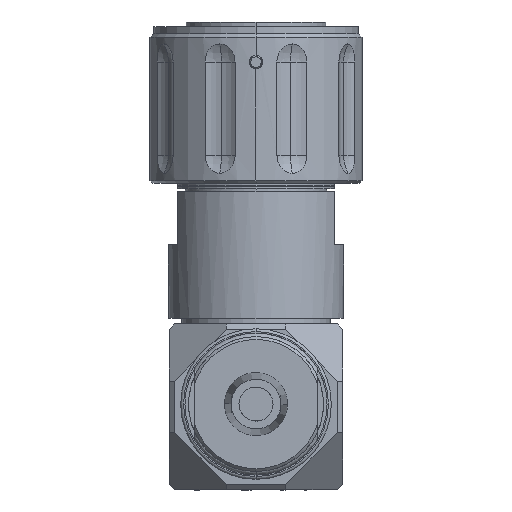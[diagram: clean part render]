
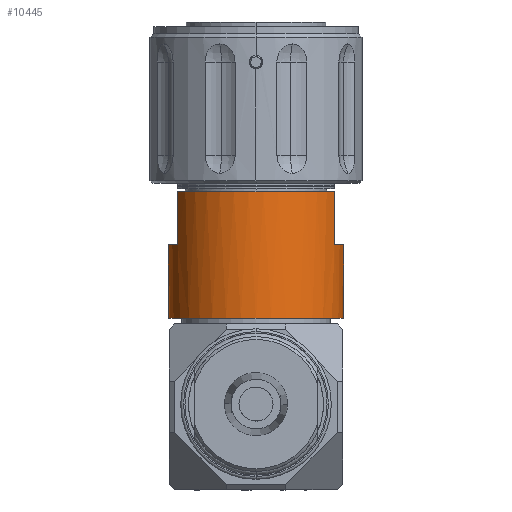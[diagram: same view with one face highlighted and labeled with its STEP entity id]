
A CAD part, front view. The second image highlights one B-rep face of the part: STEP entity #10445.
In plain terms, the highlighted cylindrical face has radius 15.684 mm (diameter 31.369 mm), a partial arc.
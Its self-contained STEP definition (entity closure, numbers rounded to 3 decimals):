
#31 = DIRECTION ( 'NONE',  ( 0., 0., 1. ) ) ;
#266 = DIRECTION ( 'NONE',  ( 1., 0., 0. ) ) ;
#1028 = CARTESIAN_POINT ( 'NONE',  ( 14.033, -7.005, -39.853 ) ) ;
#1106 = ORIENTED_EDGE ( 'NONE', *, *, #6369, .F. ) ;
#1131 = VERTEX_POINT ( 'NONE', #11054 ) ;
#1208 = AXIS2_PLACEMENT_3D ( 'NONE', #7498, #2105, #5371 ) ;
#1511 = CARTESIAN_POINT ( 'NONE',  ( -14.033, -7.005, -30.328 ) ) ;
#1941 = LINE ( 'NONE', #7546, #5674 ) ;
#2105 = DIRECTION ( 'NONE',  ( 0., 0., 1. ) ) ;
#2579 = CIRCLE ( 'NONE', #1208, 15.685 ) ;
#3164 = EDGE_CURVE ( 'NONE', #3919, #9070, #13688, .T. ) ;
#3390 = EDGE_CURVE ( 'NONE', #1131, #9354, #10866, .T. ) ;
#3732 = FACE_OUTER_BOUND ( 'NONE', #7173, .T. ) ;
#3783 = CARTESIAN_POINT ( 'NONE',  ( -14.034, -7.005, -30.328 ) ) ;
#3919 = VERTEX_POINT ( 'NONE', #6502 ) ;
#3950 = EDGE_CURVE ( 'NONE', #5367, #5781, #2579, .T. ) ;
#4277 = DIRECTION ( 'NONE',  ( 0., 0., -1. ) ) ;
#4385 = DIRECTION ( 'NONE',  ( 0., 0., -1. ) ) ;
#4559 = CIRCLE ( 'NONE', #7975, 15.685 ) ;
#4610 = DIRECTION ( 'NONE',  ( 1., 0., 0. ) ) ;
#4748 = VERTEX_POINT ( 'NONE', #1028 ) ;
#5295 = CARTESIAN_POINT ( 'NONE',  ( -15.684, 0., -53.01 ) ) ;
#5367 = VERTEX_POINT ( 'NONE', #10241 ) ;
#5371 = DIRECTION ( 'NONE',  ( 0., 1., 0. ) ) ;
#5538 = CARTESIAN_POINT ( 'NONE',  ( 15.684, 0., -53.01 ) ) ;
#5674 = VECTOR ( 'NONE', #4277, 1000. ) ;
#5781 = VERTEX_POINT ( 'NONE', #11044 ) ;
#5988 = LINE ( 'NONE', #1511, #10781 ) ;
#6082 = DIRECTION ( 'NONE',  ( 1., 0., 0. ) ) ;
#6311 = ORIENTED_EDGE ( 'NONE', *, *, #12699, .F. ) ;
#6369 = EDGE_CURVE ( 'NONE', #9354, #7085, #7387, .T. ) ;
#6425 = VECTOR ( 'NONE', #4385, 1000. ) ;
#6502 = CARTESIAN_POINT ( 'NONE',  ( 14.033, -7.005, -30.328 ) ) ;
#6663 = AXIS2_PLACEMENT_3D ( 'NONE', #7213, #11496, #6082 ) ;
#7085 = VERTEX_POINT ( 'NONE', #5295 ) ;
#7173 = EDGE_LOOP ( 'NONE', ( #7789, #7565, #1106, #8966, #6311, #12821, #14069, #13052 ) ) ;
#7213 = CARTESIAN_POINT ( 'NONE',  ( 0., 0., -30.328 ) ) ;
#7231 = EDGE_CURVE ( 'NONE', #5367, #7085, #1941, .T. ) ;
#7372 = LINE ( 'NONE', #12920, #9586 ) ;
#7387 = CIRCLE ( 'NONE', #10578, 15.684 ) ;
#7498 = CARTESIAN_POINT ( 'NONE',  ( 0., 0., -39.853 ) ) ;
#7546 = CARTESIAN_POINT ( 'NONE',  ( -15.685, 0., -30.328 ) ) ;
#7565 = ORIENTED_EDGE ( 'NONE', *, *, #7231, .T. ) ;
#7789 = ORIENTED_EDGE ( 'NONE', *, *, #3950, .F. ) ;
#7975 = AXIS2_PLACEMENT_3D ( 'NONE', #12200, #31, #9796 ) ;
#8129 = DIRECTION ( 'NONE',  ( 0., 0., 1. ) ) ;
#8767 = CARTESIAN_POINT ( 'NONE',  ( 0., 0., -53.01 ) ) ;
#8966 = ORIENTED_EDGE ( 'NONE', *, *, #3390, .F. ) ;
#9070 = VERTEX_POINT ( 'NONE', #3783 ) ;
#9354 = VERTEX_POINT ( 'NONE', #5538 ) ;
#9586 = VECTOR ( 'NONE', #9666, 1000. ) ;
#9666 = DIRECTION ( 'NONE',  ( 0., 0., -1. ) ) ;
#9796 = DIRECTION ( 'NONE',  ( 1., 0., 0. ) ) ;
#10037 = DIRECTION ( 'NONE',  ( 0., 0., -1. ) ) ;
#10241 = CARTESIAN_POINT ( 'NONE',  ( -15.685, 0., -39.853 ) ) ;
#10445 = ADVANCED_FACE ( 'NONE', ( #3732 ), #11563, .T. ) ;
#10514 = AXIS2_PLACEMENT_3D ( 'NONE', #12367, #11306, #4610 ) ;
#10578 = AXIS2_PLACEMENT_3D ( 'NONE', #8767, #10037, #266 ) ;
#10781 = VECTOR ( 'NONE', #8129, 1000. ) ;
#10866 = LINE ( 'NONE', #14058, #6425 ) ;
#11044 = CARTESIAN_POINT ( 'NONE',  ( -14.033, -7.005, -39.853 ) ) ;
#11054 = CARTESIAN_POINT ( 'NONE',  ( 15.685, 0., -39.853 ) ) ;
#11267 = EDGE_CURVE ( 'NONE', #5781, #9070, #5988, .T. ) ;
#11306 = DIRECTION ( 'NONE',  ( 0., 0., -1. ) ) ;
#11496 = DIRECTION ( 'NONE',  ( 0., 0., -1. ) ) ;
#11563 = CYLINDRICAL_SURFACE ( 'NONE', #6663, 15.685 ) ;
#12200 = CARTESIAN_POINT ( 'NONE',  ( 0., 0., -39.853 ) ) ;
#12367 = CARTESIAN_POINT ( 'NONE',  ( 0., 0., -30.328 ) ) ;
#12470 = EDGE_CURVE ( 'NONE', #3919, #4748, #7372, .T. ) ;
#12699 = EDGE_CURVE ( 'NONE', #4748, #1131, #4559, .T. ) ;
#12821 = ORIENTED_EDGE ( 'NONE', *, *, #12470, .F. ) ;
#12920 = CARTESIAN_POINT ( 'NONE',  ( 14.033, -7.005, -30.328 ) ) ;
#13052 = ORIENTED_EDGE ( 'NONE', *, *, #11267, .F. ) ;
#13688 = CIRCLE ( 'NONE', #10514, 15.685 ) ;
#14058 = CARTESIAN_POINT ( 'NONE',  ( 15.685, 0., -30.328 ) ) ;
#14069 = ORIENTED_EDGE ( 'NONE', *, *, #3164, .T. ) ;
